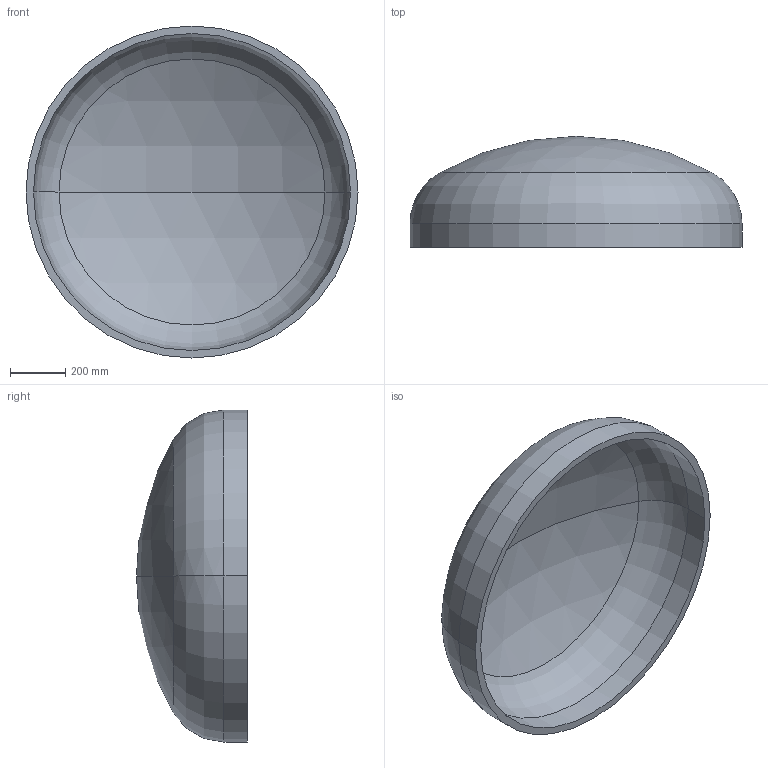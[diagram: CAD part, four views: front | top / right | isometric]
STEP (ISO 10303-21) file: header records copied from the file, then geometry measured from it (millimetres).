
FILE_DESCRIPTION (( 'STEP AP203' ), '1' );
FILE_NAME ('DIN 28013 Korbbogenform_-_Boden DIN 28013 - 1200 x 85 - I - s=27.step', '2016-07-01T09:24:54', ( '' ), ( '' ), 'SwSTEP 2.0', 'SolidWorks 2013', '' );
FILE_SCHEMA (( 'CONFIG_CONTROL_DESIGN' ));
Length unit declared in the file: millimetre
Products named in the file (1): DIN 28013 Korbbogenform_-_Boden DIN 28013 - 1200 x 85 - I - s=27
Bounding box: 1200 x 401.12 x 1200 mm (x, y, z)
Volume: 49526250.9 mm3; surface area: 3769634.2 mm2
Topology: 1 solids, 1 shells, 13 faces, 24 edges, 14 vertices
Faces by surface type: torus 4, cylinder 4, sphere 4, plane 1
Entity records: 407 total; most frequent: DIRECTION 72, CARTESIAN_POINT 52, ORIENTED_EDGE 48, AXIS2_PLACEMENT_3D 34, EDGE_CURVE 24, CIRCLE 20, EDGE_LOOP 14, VERTEX_POINT 14
